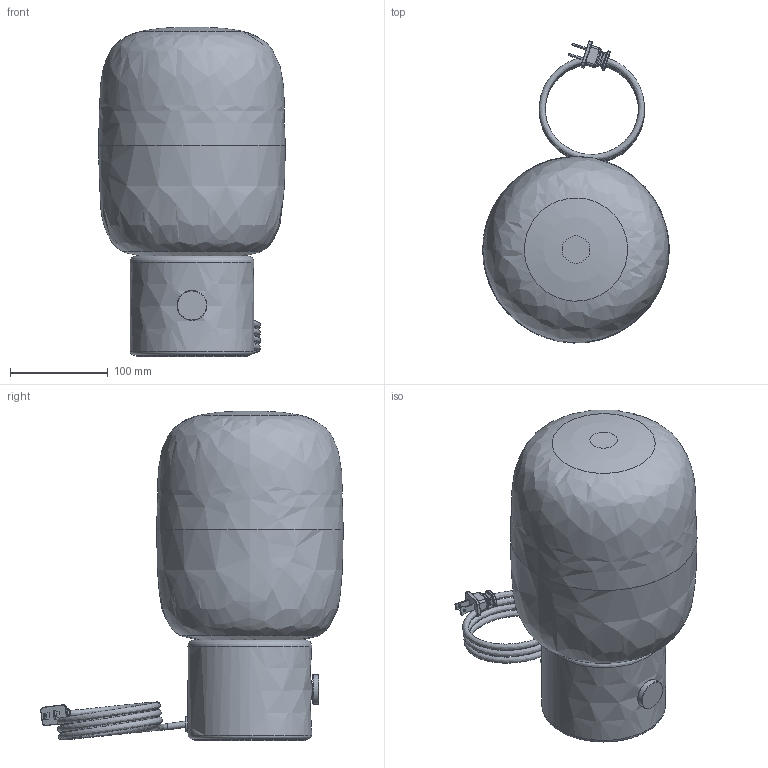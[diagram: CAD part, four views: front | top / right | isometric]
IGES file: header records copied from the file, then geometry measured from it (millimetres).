
Global section: file name: Arca Tall - Ionic Table Lamp; native system: unknown; preprocessor: unknown; author: unknown; organization: unknown; date: 20240726.155732; units: inch
Bounding box: 191.36 x 309.99 x 337.63 mm (x, y, z)
Volume: 1311139.7 mm3; surface area: 622987.5 mm2
Topology: 17 solids, 17 shells, 2016 faces, 5377 edges, 3543 vertices
Faces by surface type: bspline 2015, revolution 1
